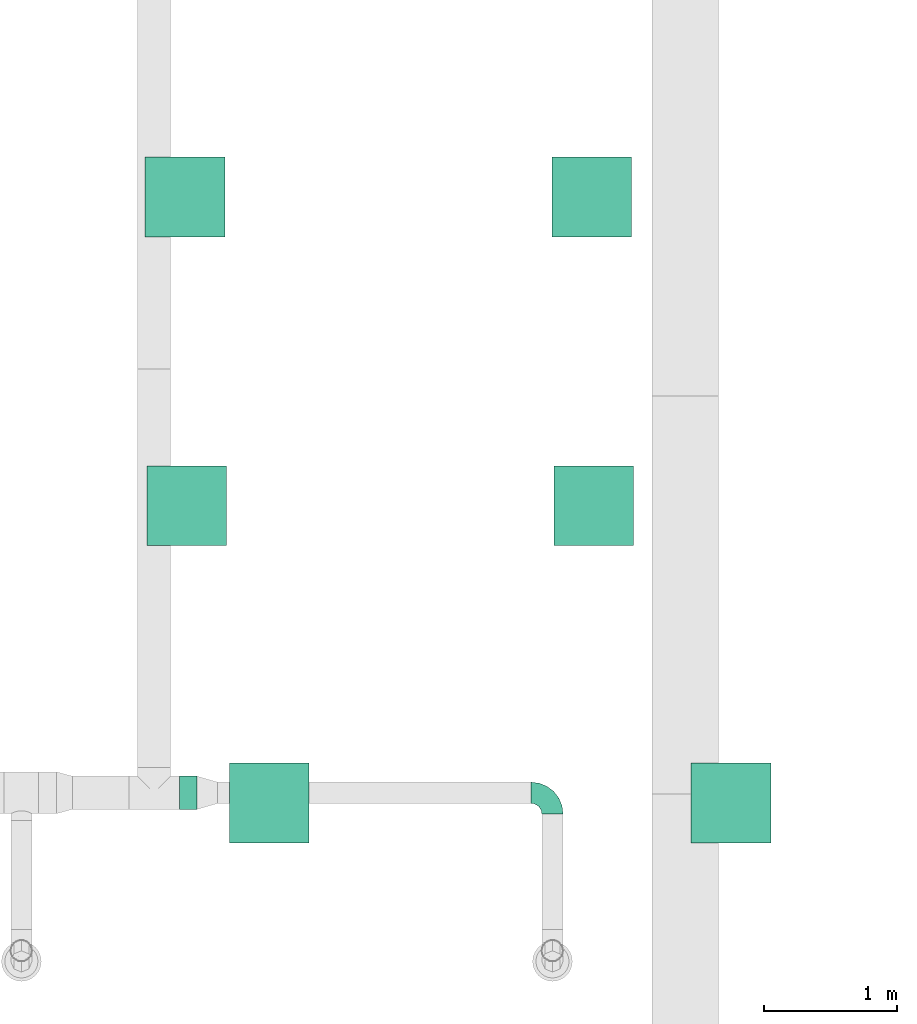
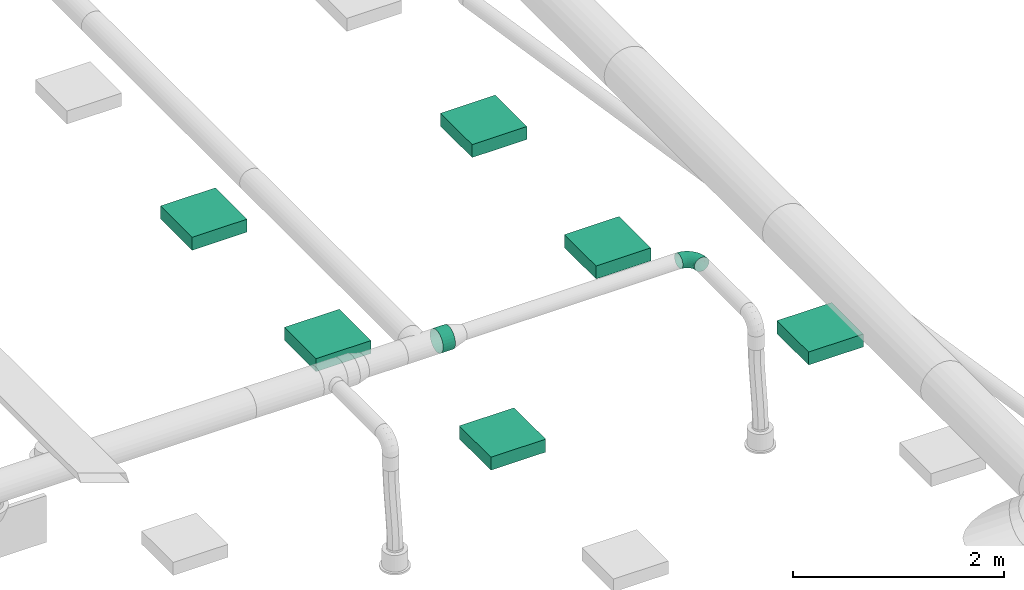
# One storey, part 184 of 374: 6 distribution elements, 1 flow fitting, 1 flow segment.
"""IFC2X3 building model written with IfcOpenShell, lengths in metres."""

from ifc_helpers import new_model, si_unit, direction, frame, frame_2d, origin, place, context, subcontext, project, spatial, rectangle, extrude, open_shell, surface_model, source, transform, mapped, element, save


model = new_model("IFC2X3")

# Units and contexts
model_context = context("Model", 3, precision=1e-05, world=origin(), true_north=direction((-0.4480736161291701, 0.8939966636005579)))
body_context = subcontext(model_context, "Body", "Model", "MODEL_VIEW")
ifc_project = project(units=[si_unit("LENGTHUNIT", "METRE"), si_unit("AREAUNIT", "SQUARE_METRE"), si_unit("VOLUMEUNIT", "CUBIC_METRE"), si_unit("PLANEANGLEUNIT", "RADIAN"), si_unit("THERMODYNAMICTEMPERATUREUNIT", "KELVIN"), si_unit("MASSUNIT", "GRAM", prefix="KILO"), si_unit("TIMEUNIT", "SECOND")], contexts=[model_context])

# Site, building, storey
site_placement = place(None, origin())
site = spatial("IfcSite", under=ifc_project, at=site_placement, Name="Site 1", CompositionType="ELEMENT")
building_placement = place(site_placement, origin())
building = spatial("IfcBuilding", under=site, at=building_placement, Name="Undefined", CompositionType="ELEMENT")
storey_placement = place(building_placement, origin())
storey = spatial("IfcBuildingStorey", under=building, at=storey_placement, Name="Rez de chauss\x8ee", CompositionType="ELEMENT", Elevation=0.0)

# Flow fitting
shared_shape_1 = source(origin(), body_context, "Body", "SurfaceModel", [
    surface_model("IfcFaceBasedSurfaceModel", [(0.06265257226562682, -8.8817842e-16, 0.0), (0.062296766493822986, 0.02088115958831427, -7.105427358e-15), (0.0003558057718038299, 0.020881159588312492, 7.105427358e-15), (0.0, 0.0, 0.0), (-0.059474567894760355, 0.022956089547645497, -0.015896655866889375), (-0.06051773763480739, 0.002098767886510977, -0.01607928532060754), (-0.11311701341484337, 0.02696454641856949, -0.04660663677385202), (-0.11477645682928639, 0.006153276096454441, -0.04714207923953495), (-0.15691588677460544, 0.0326333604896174, -0.09003710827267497), (-0.15907851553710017, 0.01188721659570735, -0.09107150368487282), (-0.18788636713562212, 0.03957621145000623, -0.14322835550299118), (-0.1904048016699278, 0.01890983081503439, -0.14487384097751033), (-0.2039178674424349, 0.04731995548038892, -0.20255548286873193), (-0.20662048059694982, 0.026742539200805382, -0.20488255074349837), (0.061253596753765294, 0.04103889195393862, -0.0053597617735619), (0.0013989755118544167, 0.04103889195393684, -0.005359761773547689), (-0.05641614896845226, 0.04304393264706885, -0.02072097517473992), (-0.10825177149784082, 0.04691737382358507, -0.050396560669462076), (-0.15057538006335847, 0.05239524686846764, -0.09236417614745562), (-0.18050269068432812, 0.05910424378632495, -0.14376379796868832), (-0.19599420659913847, 0.06658715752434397, -0.20109262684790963), (0.05959415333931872, 0.05909948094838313, -0.01571402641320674), (0.003058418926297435, 0.05909948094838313, -0.01571402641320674), (-0.05155090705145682, 0.06099334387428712, -0.030223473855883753), (-0.10051228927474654, 0.06465200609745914, -0.058253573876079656), (-0.1404890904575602, 0.0698261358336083, -0.09789412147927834), (-0.16875695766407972, 0.0761631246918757, -0.14644367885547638), (-0.18338948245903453, 0.08323111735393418, -0.2005936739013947), (0.057431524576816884, 0.07383212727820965, -0.030357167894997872), (0.005221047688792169, 0.07383212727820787, -0.03035716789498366), (-0.0452104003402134, 0.07558110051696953, -0.04375657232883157), (-0.09042599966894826, 0.07895985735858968, -0.06964223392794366), (-0.12734438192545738, 0.08373814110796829, -0.10625008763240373), (-0.15344962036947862, 0.08959031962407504, -0.15108536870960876), (-0.16696268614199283, 0.0961175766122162, -0.20109262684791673), (0.054913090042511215, 0.0842328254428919, -0.048291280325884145), (0.007739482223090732, 0.08423282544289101, -0.04829128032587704), (-0.037826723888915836, 0.08581307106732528, -0.06039801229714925), (-0.07868026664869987, 0.08886587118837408, -0.08378642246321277), (-0.11203704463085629, 0.09318318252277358, -0.11686262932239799), (-0.13562384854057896, 0.09847078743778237, -0.1573725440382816), (-0.14783327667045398, 0.10436834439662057, -0.20255548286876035), (0.05221047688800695, 0.0895927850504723, -0.06829418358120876), (0.010442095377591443, 0.08959278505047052, -0.06829418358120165), (-0.029903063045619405, 0.09099196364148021, -0.07901370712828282), (-0.06607554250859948, 0.09369496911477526, -0.0997222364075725), (-0.0956102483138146, 0.0975175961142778, -0.12900851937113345), (-0.11649443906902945, 0.10219933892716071, -0.16487674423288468), (-0.12730489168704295, 0.1074211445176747, -0.2048825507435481), (0.04950786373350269, 0.08954673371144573, -0.08900271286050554), (0.013144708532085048, 0.08954673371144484, -0.08900271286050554), (-0.02197940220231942, 0.09076484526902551, -0.09833502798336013), (-0.05347081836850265, 0.09311805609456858, -0.11636367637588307), (-0.0791834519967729, 0.09644599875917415, -0.14186003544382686), (-0.09736502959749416, 0.10052187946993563, -0.17308657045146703), (-0.10677650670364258, 0.1050679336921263, -0.20791524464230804), (0.04698942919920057, 0.08409780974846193, -0.10900561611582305), (0.015663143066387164, 0.08409780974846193, -0.10900561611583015), (-0.014595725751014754, 0.08514719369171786, -0.11704525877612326), (-0.0417250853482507, 0.0871744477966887, -0.13257665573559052), (-0.06387611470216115, 0.09004141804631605, -0.15454136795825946), (-0.07953925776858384, 0.09355272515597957, -0.1814425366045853), (-0.08764709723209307, 0.09746907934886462, -0.21144689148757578), (0.04482680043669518, 0.0736173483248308, -0.12693972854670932), (0.017825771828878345, 0.0736173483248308, -0.12693972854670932), (-0.008255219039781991, 0.07452184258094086, -0.13386932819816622), (-0.03163879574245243, 0.0762691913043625, -0.14725628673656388), (-0.050731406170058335, 0.07874031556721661, -0.1661883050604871), (-0.06423192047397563, 0.08176681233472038, -0.18937519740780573), (-0.07122030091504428, 0.08514243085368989, -0.21523681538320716), (0.04316735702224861, 0.058819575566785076, -0.14158287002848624), (0.019485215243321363, 0.058819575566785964, -0.14158287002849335), (-0.0033899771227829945, 0.05961289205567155, -0.14766070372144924), (-0.02389931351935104, 0.06114546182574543, -0.15940217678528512), (-0.04064511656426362, 0.06331284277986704, -0.17600712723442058), (-0.052486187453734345, 0.06596733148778, -0.19634395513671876), (-0.05861557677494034, 0.06892802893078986, -0.2190267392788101), (0.04212418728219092, 0.040712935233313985, -0.15193713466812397), (0.020528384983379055, 0.040712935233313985, -0.15193713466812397), (-0.0003315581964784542, 0.041436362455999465, -0.15747952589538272), (-0.019034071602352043, 0.04283391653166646, -0.16818660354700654), (-0.03430460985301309, 0.04481035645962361, -0.1833286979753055), (-0.04510251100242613, 0.047230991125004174, -0.20187390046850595), (-0.05069191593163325, 0.04993085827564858, -0.22255838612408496), (0.04176838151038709, 0.02053136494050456, -0.15729689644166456), (0.020884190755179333, 0.02053136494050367, -0.15729689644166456), (0.0007116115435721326, 0.021230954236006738, -0.16265665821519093), (-0.017374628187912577, 0.022582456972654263, -0.17301092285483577), (-0.03214198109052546, 0.024493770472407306, -0.1876540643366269), (-0.042584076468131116, 0.026834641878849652, -0.20558817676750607), (-0.04798930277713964, 0.02944554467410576, -0.22559108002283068), (0.04212418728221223, -0.000349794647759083, -0.15729689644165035), (0.020528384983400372, -0.000349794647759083, -0.15729689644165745), (-0.0003315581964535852, 0.00037363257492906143, -0.1628392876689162), (-0.019034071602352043, 0.0017711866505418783, -0.17354636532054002), (-0.03430460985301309, 0.0037476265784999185, -0.18868845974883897), (-0.04510251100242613, 0.00616826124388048, -0.20723366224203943), (-0.05069191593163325, 0.008868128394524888, -0.22791814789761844), (0.04316735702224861, -0.020507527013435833, -0.15193713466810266), (0.019485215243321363, -0.020507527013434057, -0.15193713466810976), (-0.0033899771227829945, -0.019714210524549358, -0.15801496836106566), (-0.02389931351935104, -0.01818164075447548, -0.16975644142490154), (-0.04064511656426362, -0.01601425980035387, -0.186361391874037), (-0.052486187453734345, -0.013359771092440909, -0.20669821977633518), (-0.05861557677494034, -0.010399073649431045, -0.22938100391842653), (0.04482680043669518, -0.03856811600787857, -0.1415828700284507), (0.017825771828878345, -0.03856811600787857, -0.1415828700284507), (-0.008255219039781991, -0.03766362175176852, -0.1485124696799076), (-0.03163879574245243, -0.03591627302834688, -0.16189942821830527), (-0.050731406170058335, -0.03344514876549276, -0.1808314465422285), (-0.06423192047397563, -0.030418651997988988, -0.20401833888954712), (-0.07122030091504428, -0.027043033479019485, -0.22987995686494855), (0.04698942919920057, -0.05330076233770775, -0.12693972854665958), (0.015663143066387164, -0.05330076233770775, -0.12693972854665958), (-0.014595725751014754, -0.05225137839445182, -0.1349793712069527), (-0.0417250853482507, -0.05022412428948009, -0.15051076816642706), (-0.06387611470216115, -0.047357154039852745, -0.172475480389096), (-0.07953925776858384, -0.043845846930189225, -0.19937664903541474), (-0.08764709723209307, -0.03992949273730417, -0.2293810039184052), (0.04950786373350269, -0.06370146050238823, -0.10900561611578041), (0.013144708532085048, -0.06370146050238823, -0.10900561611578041), (-0.02197940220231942, -0.06248334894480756, -0.11833793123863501), (-0.05347081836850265, -0.06013013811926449, -0.13636657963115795), (-0.0791834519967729, -0.05680219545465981, -0.16186293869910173), (-0.09736502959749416, -0.05272631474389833, -0.1930894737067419), (-0.10677650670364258, -0.04818026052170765, -0.2279181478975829), (0.05221047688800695, -0.06906142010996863, -0.08900271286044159), (0.010442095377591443, -0.06906142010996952, -0.08900271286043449), (-0.029903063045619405, -0.06766224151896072, -0.09972223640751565), (-0.06607554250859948, -0.06495923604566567, -0.12043076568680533), (-0.0956102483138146, -0.06113660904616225, -0.14971704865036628), (-0.11649443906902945, -0.05645486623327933, -0.1855852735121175), (-0.12730489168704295, -0.05123306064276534, -0.22559108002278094), (0.054913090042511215, -0.06901536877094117, -0.06829418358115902), (0.007739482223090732, -0.06901536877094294, -0.06829418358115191), (-0.037826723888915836, -0.06743512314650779, -0.08040091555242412), (-0.07868026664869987, -0.06438232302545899, -0.10378932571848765), (-0.11203704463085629, -0.06006501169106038, -0.13686553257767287), (-0.13562384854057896, -0.0547774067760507, -0.17737544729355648), (-0.14783327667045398, -0.04887984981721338, -0.22255838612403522), (0.057431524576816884, -0.06356644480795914, -0.0482912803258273), (0.005221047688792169, -0.06356644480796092, -0.04829128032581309), (-0.0452104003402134, -0.061817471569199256, -0.0616906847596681), (-0.09042599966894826, -0.05843871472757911, -0.0875763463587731), (-0.12734438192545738, -0.05366043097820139, -0.12418420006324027), (-0.15344962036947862, -0.04780825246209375, -0.1690194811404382), (-0.16696268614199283, -0.041280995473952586, -0.21902673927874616), (0.05959415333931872, -0.05308598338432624, -0.030357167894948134), (0.003058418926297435, -0.05308598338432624, -0.030357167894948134), (-0.05155090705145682, -0.05119212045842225, -0.04486661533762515), (-0.10051228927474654, -0.04753345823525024, -0.07289671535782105), (-0.1404890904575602, -0.04235932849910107, -0.11253726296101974), (-0.16875695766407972, -0.03602233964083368, -0.16108682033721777), (-0.18338948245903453, -0.02895434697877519, -0.2152368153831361), (0.061253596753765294, -0.03828821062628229, -0.015714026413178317), (0.0013989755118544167, -0.03828821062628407, -0.015714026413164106), (-0.05641614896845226, -0.03628316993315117, -0.031075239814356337), (-0.10825177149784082, -0.03240972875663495, -0.06075082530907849), (-0.15057538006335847, -0.026931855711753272, -0.10271844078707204), (-0.18050269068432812, -0.02022285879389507, -0.15411806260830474), (-0.19599420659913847, -0.012739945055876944, -0.21144689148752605), (0.062296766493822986, -0.020181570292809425, -0.005359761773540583), (0.0003558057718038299, -0.020181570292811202, -0.0053597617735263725), (-0.059474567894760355, -0.018106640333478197, -0.021256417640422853), (-0.11311701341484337, -0.014098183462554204, -0.051966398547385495), (-0.15691588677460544, -0.00842936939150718, -0.09539687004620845), (-0.18788636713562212, -0.0014865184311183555, -0.14858811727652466), (-0.2039178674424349, 0.006257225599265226, -0.2079152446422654)], [open_shell([[[0, 1, 2, 3]], [[3, 2, 4, 5]], [[5, 4, 6, 7]], [[7, 6, 8, 9]], [[9, 8, 10, 11]], [[11, 10, 12, 13]], [[1, 14, 15, 2]], [[2, 15, 16, 4]], [[4, 16, 17, 6]], [[6, 17, 18, 8]], [[8, 18, 19, 10]], [[10, 19, 20, 12]], [[14, 21, 22, 15]], [[15, 22, 23, 16]], [[16, 23, 24, 17]], [[17, 24, 25, 18]], [[18, 25, 26, 19]], [[19, 26, 27, 20]], [[21, 28, 29, 22]], [[22, 29, 30, 23]], [[23, 30, 31, 24]], [[24, 31, 32, 25]], [[25, 32, 33, 26]], [[26, 33, 34, 27]], [[28, 35, 36, 29]], [[29, 36, 37, 30]], [[30, 37, 38, 31]], [[31, 38, 39, 32]], [[32, 39, 40, 33]], [[33, 40, 41, 34]], [[35, 42, 43, 36]], [[36, 43, 44, 37]], [[37, 44, 45, 38]], [[38, 45, 46, 39]], [[39, 46, 47, 40]], [[40, 47, 48, 41]], [[42, 49, 50, 43]], [[43, 50, 51, 44]], [[44, 51, 52, 45]], [[45, 52, 53, 46]], [[46, 53, 54, 47]], [[47, 54, 55, 48]], [[49, 56, 57, 50]], [[50, 57, 58, 51]], [[51, 58, 59, 52]], [[52, 59, 60, 53]], [[53, 60, 61, 54]], [[54, 61, 62, 55]], [[56, 63, 64, 57]], [[57, 64, 65, 58]], [[58, 65, 66, 59]], [[59, 66, 67, 60]], [[60, 67, 68, 61]], [[61, 68, 69, 62]], [[63, 70, 71, 64]], [[64, 71, 72, 65]], [[65, 72, 73, 66]], [[66, 73, 74, 67]], [[67, 74, 75, 68]], [[68, 75, 76, 69]], [[70, 77, 78, 71]], [[71, 78, 79, 72]], [[72, 79, 80, 73]], [[73, 80, 81, 74]], [[74, 81, 82, 75]], [[75, 82, 83, 76]], [[77, 84, 85, 78]], [[78, 85, 86, 79]], [[79, 86, 87, 80]], [[80, 87, 88, 81]], [[81, 88, 89, 82]], [[82, 89, 90, 83]], [[84, 91, 92, 85]], [[85, 92, 93, 86]], [[86, 93, 94, 87]], [[87, 94, 95, 88]], [[88, 95, 96, 89]], [[89, 96, 97, 90]], [[91, 98, 99, 92]], [[92, 99, 100, 93]], [[93, 100, 101, 94]], [[94, 101, 102, 95]], [[95, 102, 103, 96]], [[96, 103, 104, 97]], [[98, 105, 106, 99]], [[99, 106, 107, 100]], [[100, 107, 108, 101]], [[101, 108, 109, 102]], [[102, 109, 110, 103]], [[103, 110, 111, 104]], [[105, 112, 113, 106]], [[106, 113, 114, 107]], [[107, 114, 115, 108]], [[108, 115, 116, 109]], [[109, 116, 117, 110]], [[110, 117, 118, 111]], [[112, 119, 120, 113]], [[113, 120, 121, 114]], [[114, 121, 122, 115]], [[115, 122, 123, 116]], [[116, 123, 124, 117]], [[117, 124, 125, 118]], [[119, 126, 127, 120]], [[120, 127, 128, 121]], [[121, 128, 129, 122]], [[122, 129, 130, 123]], [[123, 130, 131, 124]], [[124, 131, 132, 125]], [[126, 133, 134, 127]], [[127, 134, 135, 128]], [[128, 135, 136, 129]], [[129, 136, 137, 130]], [[130, 137, 138, 131]], [[131, 138, 139, 132]], [[133, 140, 141, 134]], [[134, 141, 142, 135]], [[135, 142, 143, 136]], [[136, 143, 144, 137]], [[137, 144, 145, 138]], [[138, 145, 146, 139]], [[140, 147, 148, 141]], [[141, 148, 149, 142]], [[142, 149, 150, 143]], [[143, 150, 151, 144]], [[144, 151, 152, 145]], [[145, 152, 153, 146]], [[147, 154, 155, 148]], [[148, 155, 156, 149]], [[149, 156, 157, 150]], [[150, 157, 158, 151]], [[151, 158, 159, 152]], [[152, 159, 160, 153]], [[154, 161, 162, 155]], [[155, 162, 163, 156]], [[156, 163, 164, 157]], [[157, 164, 165, 158]], [[158, 165, 166, 159]], [[159, 166, 167, 160]], [[161, 0, 3, 162]], [[162, 3, 5, 163]], [[163, 5, 7, 164]], [[164, 7, 9, 165]], [[165, 9, 11, 166]], [[166, 11, 13, 167]]])]),
])
flow_fitting_placement = place(storey_placement, origin())
element("IfcFlowFitting", 1, at=flow_fitting_placement, inside=storey, Name="Coude", ObjectType="Coude", context=body_context, shape_type="MappedRepresentation", body=[
    mapped(shared_shape_1, transform((64.19212664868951, 8.296821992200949, 3.8000000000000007), x_axis=(-0.9914448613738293, 0.13052619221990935, 0.0), y_axis=(-0.016893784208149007, -0.12832103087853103, 0.9915887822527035), z_axis=(0.12942830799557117, 0.9831056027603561, 0.12942830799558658))),
])

# Flow segment
shared_shape_2 = source(origin(), body_context, "Body", "SurfaceModel", [
    surface_model("IfcFaceBasedSurfaceModel", [(0.0, 0.03263154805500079, 0.0), (0.0, 0.0, 0.0), (0.13500000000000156, -7.105427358e-15, 8.8817842e-16), (0.13500000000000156, 0.03263154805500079, 8.8817842e-16), (0.0, -0.031519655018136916, -0.008445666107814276), (0.13500000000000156, -0.03151965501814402, -0.008445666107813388), (0.0, -0.05977940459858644, -0.024761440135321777), (0.13500000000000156, -0.05977940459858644, -0.02476144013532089), (0.0, -0.08285339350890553, -0.047835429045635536), (0.13500000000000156, -0.08285339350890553, -0.04783542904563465), (0.0, -0.09916916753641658, -0.07609517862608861), (0.13500000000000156, -0.09916916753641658, -0.07609517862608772), (0.0, -0.1076148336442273, -0.10761483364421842), (0.13500000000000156, -0.10761483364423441, -0.10761483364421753), (0.0, -0.1076148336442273, -0.14024638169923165), (0.13500000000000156, -0.1076148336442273, -0.14024638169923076), (0.0, -0.09916916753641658, -0.17176603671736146), (0.13500000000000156, -0.09916916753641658, -0.17176603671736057), (0.0, -0.08285339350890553, -0.2000257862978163), (0.13500000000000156, -0.08285339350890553, -0.20002578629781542), (0.0, -0.059779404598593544, -0.22309977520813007), (0.13500000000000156, -0.05977940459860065, -0.2230997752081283), (0.0, -0.03151965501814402, -0.23941554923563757), (0.13500000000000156, -0.03151965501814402, -0.23941554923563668), (0.0, -1.4210854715e-14, -0.24786121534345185), (0.13500000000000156, -1.4210854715e-14, -0.24786121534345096), (0.0, 0.03263154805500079, -0.24786121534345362), (0.13500000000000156, 0.03263154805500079, -0.24786121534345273), (0.0, 0.0641512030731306, -0.23941554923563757), (0.13500000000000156, 0.0641512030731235, -0.23941554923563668), (0.0, 0.09241095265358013, -0.22309977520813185), (0.13500000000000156, 0.09241095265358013, -0.22309977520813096), (0.0, 0.11548494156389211, -0.2000257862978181), (0.13500000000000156, 0.11548494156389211, -0.2000257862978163), (0.0, 0.13180071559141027, -0.171766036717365), (0.13500000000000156, 0.13180071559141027, -0.17176603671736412), (0.0, 0.140246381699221, -0.1402463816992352), (0.13500000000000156, 0.14024638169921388, -0.14024638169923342), (0.0, 0.140246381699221, -0.10761483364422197), (0.13500000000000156, 0.140246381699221, -0.10761483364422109), (0.0, 0.13180071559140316, -0.07609517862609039), (0.13500000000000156, 0.13180071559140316, -0.07609517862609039), (0.0, 0.11548494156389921, -0.04783542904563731), (0.13500000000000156, 0.11548494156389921, -0.047835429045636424), (0.0, 0.09241095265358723, -0.024761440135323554), (0.13500000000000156, 0.09241095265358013, -0.024761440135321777), (0.0, 0.06415120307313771, -0.008445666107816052), (0.13500000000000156, 0.06415120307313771, -0.008445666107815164)], [open_shell([[[0, 1, 2, 3]], [[1, 4, 5, 2]], [[4, 6, 7, 5]], [[6, 8, 9, 7]], [[8, 10, 11, 9]], [[10, 12, 13, 11]], [[12, 14, 15, 13]], [[14, 16, 17, 15]], [[16, 18, 19, 17]], [[18, 20, 21, 19]], [[20, 22, 23, 21]], [[22, 24, 25, 23]], [[24, 26, 27, 25]], [[26, 28, 29, 27]], [[28, 30, 31, 29]], [[30, 32, 33, 31]], [[32, 34, 35, 33]], [[34, 36, 37, 35]], [[36, 38, 39, 37]], [[38, 40, 41, 39]], [[40, 42, 43, 41]], [[42, 44, 45, 43]], [[44, 46, 47, 45]], [[46, 0, 3, 47]]])]),
])
flow_segment_placement = place(storey_placement, origin())
element("IfcFlowSegment", 2, at=flow_segment_placement, inside=storey, Name="Manchon", ObjectType="Manchon", context=body_context, shape_type="MappedRepresentation", body=[
    mapped(shared_shape_2, transform((61.47948753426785, 8.192647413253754, 3.920740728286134), x_axis=(1.0, 0.0, 0.0), y_axis=(0.0, 0.9914448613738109, 0.1305261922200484), z_axis=(0.0, -0.1305261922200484, 0.9914448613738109))),
])

# Distribution elements
distribution_element_1_placement = place(storey_placement, origin())
element("IfcDistributionElement", 3, at=distribution_element_1_placement, inside=storey, Name="Decken-Rechteckleuchte mit Rahmen AP", ObjectType="Decken-Rechteckleuchte mit Rahmen AP", context=body_context, shape_type="SweptSolid", body=[
    extrude(rectangle(XDim=0.6000000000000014, YDim=0.6000000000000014, at=frame_2d((3.552713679e-15, 0.0), x_axis=(0.0, 1.0))), frame((65.63490057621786, 8.147841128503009, 2.5500000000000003), z_axis=(0.0, 0.0, -1.0), x_axis=(1.0, 0.0, 0.0)), (0.0, 0.0, 1.0), 0.15),
])
distribution_element_2_placement = place(storey_placement, origin())
element("IfcDistributionElement", 4, at=distribution_element_2_placement, inside=storey, Name="Decken-Rechteckleuchte mit Rahmen AP", ObjectType="Decken-Rechteckleuchte mit Rahmen AP", context=body_context, shape_type="SweptSolid", body=[
    extrude(rectangle(XDim=0.6000000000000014, YDim=0.6000000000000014, at=frame_2d((3.552713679e-15, 0.0), x_axis=(0.0, 1.0))), frame((61.53609788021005, 10.3875, 2.5500000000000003), z_axis=(0.0, 0.0, -1.0), x_axis=(1.0, 0.0, 0.0)), (0.0, 0.0, 1.0), 0.15),
])
distribution_element_3_placement = place(storey_placement, origin())
element("IfcDistributionElement", 5, at=distribution_element_3_placement, inside=storey, Name="Decken-Rechteckleuchte mit Rahmen AP", ObjectType="Decken-Rechteckleuchte mit Rahmen AP", context=body_context, shape_type="SweptSolid", body=[
    extrude(rectangle(XDim=0.6000000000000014, YDim=0.6000000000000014, at=frame_2d((3.552713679e-15, 0.0), x_axis=(0.0, 1.0))), frame((61.522097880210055, 12.712499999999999, 2.5500000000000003), z_axis=(0.0, 0.0, -1.0), x_axis=(1.0, 0.0, 0.0)), (0.0, 0.0, 1.0), 0.15),
])
distribution_element_4_placement = place(storey_placement, origin())
element("IfcDistributionElement", 6, at=distribution_element_4_placement, inside=storey, Name="Decken-Rechteckleuchte mit Rahmen AP", ObjectType="Decken-Rechteckleuchte mit Rahmen AP", context=body_context, shape_type="SweptSolid", body=[
    extrude(rectangle(XDim=0.6000000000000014, YDim=0.6000000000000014, at=frame_2d((3.552713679e-15, 0.0), x_axis=(0.0, 1.0))), frame((62.15654034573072, 8.147841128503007, 2.5500000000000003), z_axis=(0.0, 0.0, -1.0), x_axis=(1.0, 0.0, 0.0)), (0.0, 0.0, 1.0), 0.15),
])
distribution_element_5_placement = place(storey_placement, origin())
element("IfcDistributionElement", 7, at=distribution_element_5_placement, inside=storey, Name="Decken-Rechteckleuchte mit Rahmen AP", ObjectType="Decken-Rechteckleuchte mit Rahmen AP", context=body_context, shape_type="SweptSolid", body=[
    extrude(rectangle(XDim=0.6000000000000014, YDim=0.6000000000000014, at=frame_2d((3.552713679e-15, 0.0), x_axis=(0.0, 1.0))), frame((64.60082980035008, 10.3875, 2.5500000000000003), z_axis=(0.0, 0.0, -1.0), x_axis=(1.0, 0.0, 0.0)), (0.0, 0.0, 1.0), 0.15),
])
distribution_element_6_placement = place(storey_placement, origin())
element("IfcDistributionElement", 8, at=distribution_element_6_placement, inside=storey, Name="Decken-Rechteckleuchte mit Rahmen AP", ObjectType="Decken-Rechteckleuchte mit Rahmen AP", context=body_context, shape_type="SweptSolid", body=[
    extrude(rectangle(XDim=0.6000000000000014, YDim=0.6000000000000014, at=frame_2d((3.552713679e-15, 0.0), x_axis=(0.0, 1.0))), frame((64.58682980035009, 12.712499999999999, 2.5500000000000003), z_axis=(0.0, 0.0, -1.0), x_axis=(1.0, 0.0, 0.0)), (0.0, 0.0, 1.0), 0.15),
])

save(model, "model.ifc")
